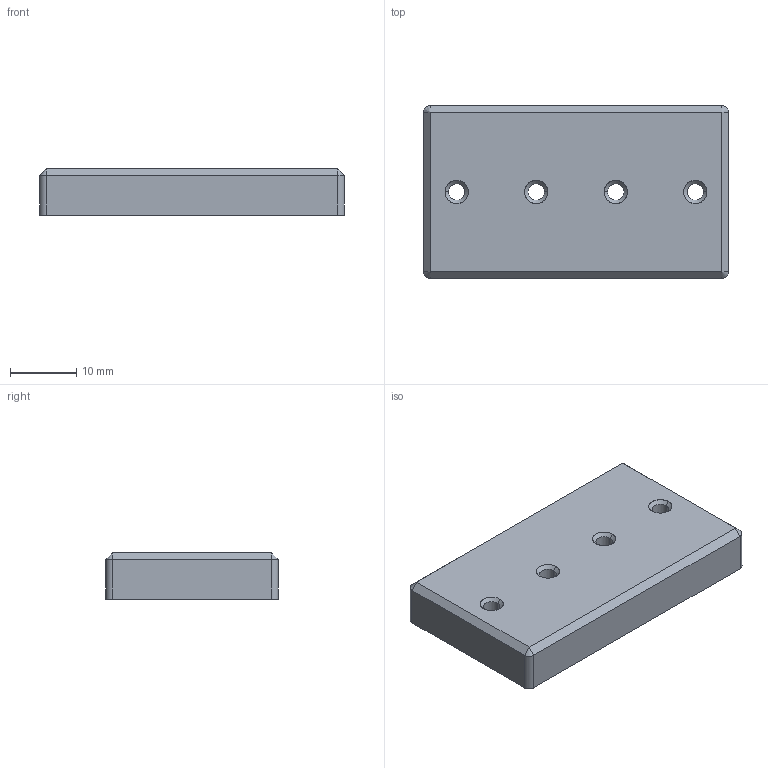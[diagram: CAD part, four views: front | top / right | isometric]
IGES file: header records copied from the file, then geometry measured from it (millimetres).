
Start section: SolidWorks IGES file using analytic representation for surfaces
Global section: file name: G:\My Drive\Bubble Gripper Doc Update\punyo.tech parts\V1.1\Tube Connector Fixture.IGS; native system: SolidWorks 2022; preprocessor: SolidWorks 2022; author: Jarod Wilson; date: 230329.154745; units: millimetre
Bounding box: 46 x 26 x 7 mm (x, y, z)
Surface area: 3474.4 mm2 (no closed solid volume)
Topology: 0 solids, 0 shells, 34 faces, 424 edges, 420 vertices
Faces by surface type: revolution 24, bspline 10
